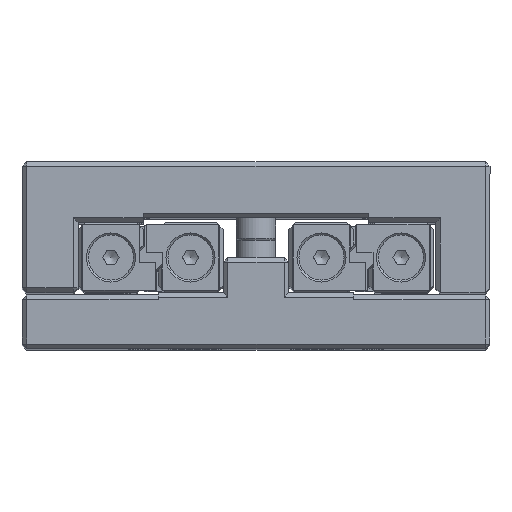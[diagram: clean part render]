
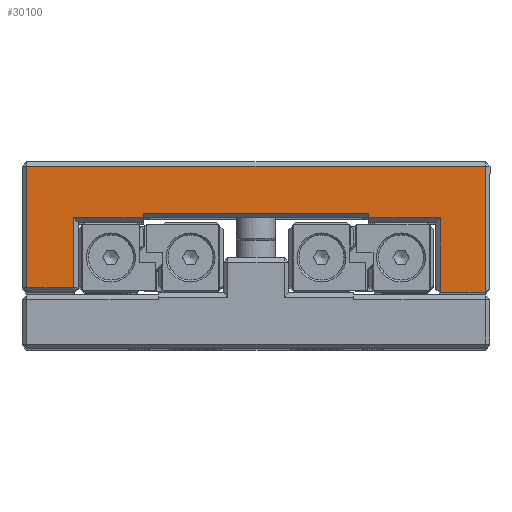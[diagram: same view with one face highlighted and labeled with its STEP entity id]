
A CAD part, top view. The second image highlights one B-rep face of the part: STEP entity #30100.
In plain terms, the highlighted planar face has unit normal (0, 0, 1).
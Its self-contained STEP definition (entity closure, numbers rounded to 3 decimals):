
#1811=PLANE('',#32404);
#3373=FACE_OUTER_BOUND('',#5135,.T.);
#5135=EDGE_LOOP('',(#24517,#24518,#24519,#24520,#24521,#24522,#24523,#24524,
#24525,#24526,#24527,#24528));
#7336=LINE('',#46457,#10132);
#7381=LINE('',#46753,#10177);
#7418=LINE('',#46983,#10214);
#7514=LINE('',#47294,#10310);
#7518=LINE('',#47302,#10314);
#7527=LINE('',#47317,#10323);
#7531=LINE('',#47325,#10327);
#7546=LINE('',#47351,#10342);
#7549=LINE('',#47355,#10345);
#7568=LINE('',#47394,#10364);
#7571=LINE('',#47399,#10367);
#7572=LINE('',#47400,#10368);
#10132=VECTOR('',#37222,10.);
#10177=VECTOR('',#37533,10.);
#10214=VECTOR('',#37702,10.);
#10310=VECTOR('',#37942,10.);
#10314=VECTOR('',#37950,10.);
#10323=VECTOR('',#37965,10.);
#10327=VECTOR('',#37971,10.);
#10342=VECTOR('',#37996,10.);
#10345=VECTOR('',#38001,10.);
#10364=VECTOR('',#38054,10.);
#10367=VECTOR('',#38061,10.);
#10368=VECTOR('',#38062,10.);
#13662=VERTEX_POINT('',#46453);
#13664=VERTEX_POINT('',#46456);
#13765=VERTEX_POINT('',#46749);
#13767=VERTEX_POINT('',#46752);
#13834=VERTEX_POINT('',#46972);
#13837=VERTEX_POINT('',#46981);
#13932=VERTEX_POINT('',#47293);
#13933=VERTEX_POINT('',#47300);
#13934=VERTEX_POINT('',#47301);
#13937=VERTEX_POINT('',#47316);
#13940=VERTEX_POINT('',#47323);
#13946=VERTEX_POINT('',#47349);
#17260=EDGE_CURVE('',#13664,#13662,#7336,.T.);
#17398=EDGE_CURVE('',#13767,#13765,#7381,.T.);
#17497=EDGE_CURVE('',#13834,#13837,#7418,.T.);
#17628=EDGE_CURVE('',#13664,#13932,#7514,.T.);
#17632=EDGE_CURVE('',#13933,#13934,#7518,.T.);
#17641=EDGE_CURVE('',#13934,#13937,#7527,.T.);
#17645=EDGE_CURVE('',#13940,#13662,#7531,.T.);
#17660=EDGE_CURVE('',#13946,#13940,#7546,.T.);
#17663=EDGE_CURVE('',#13937,#13946,#7549,.T.);
#17682=EDGE_CURVE('',#13767,#13837,#7568,.T.);
#17685=EDGE_CURVE('',#13834,#13933,#7571,.T.);
#17686=EDGE_CURVE('',#13932,#13765,#7572,.T.);
#24517=ORIENTED_EDGE('',*,*,#17685,.F.);
#24518=ORIENTED_EDGE('',*,*,#17497,.T.);
#24519=ORIENTED_EDGE('',*,*,#17682,.F.);
#24520=ORIENTED_EDGE('',*,*,#17398,.T.);
#24521=ORIENTED_EDGE('',*,*,#17686,.F.);
#24522=ORIENTED_EDGE('',*,*,#17628,.F.);
#24523=ORIENTED_EDGE('',*,*,#17260,.T.);
#24524=ORIENTED_EDGE('',*,*,#17645,.F.);
#24525=ORIENTED_EDGE('',*,*,#17660,.F.);
#24526=ORIENTED_EDGE('',*,*,#17663,.F.);
#24527=ORIENTED_EDGE('',*,*,#17641,.F.);
#24528=ORIENTED_EDGE('',*,*,#17632,.F.);
#30100=ADVANCED_FACE('',(#3373),#1811,.T.);
#32404=AXIS2_PLACEMENT_3D('',#47398,#38059,#38060);
#37222=DIRECTION('',(1.,0.,0.));
#37533=DIRECTION('',(0.,-1.,0.));
#37702=DIRECTION('',(0.,1.,0.));
#37942=DIRECTION('',(0.,1.,0.));
#37950=DIRECTION('',(0.,-1.,0.));
#37965=DIRECTION('',(-1.,0.,0.));
#37971=DIRECTION('',(0.,-1.,0.));
#37996=DIRECTION('',(1.,0.,0.));
#38001=DIRECTION('',(0.,1.,0.));
#38054=DIRECTION('',(-1.,0.,0.));
#38059=DIRECTION('center_axis',(0.,0.,
1.));
#38060=DIRECTION('ref_axis',(1.,0.,0.));
#38061=DIRECTION('',(-1.,0.,0.));
#38062=DIRECTION('',(-1.,0.,0.));
#46453=CARTESIAN_POINT('',(19.869,67.583,14.133));
#46456=CARTESIAN_POINT('',(10.269,67.583,14.133));
#46457=CARTESIAN_POINT('',(9.269,67.583,14.133));
#46749=CARTESIAN_POINT('',(-5.031,83.583,14.133));
#46752=CARTESIAN_POINT('',(-5.031,84.583,14.133));
#46753=CARTESIAN_POINT('',(-5.031,83.583,14.133));
#46972=CARTESIAN_POINT('',(-53.231,83.583,14.133));
#46981=CARTESIAN_POINT('',(-53.231,84.583,14.133));
#46983=CARTESIAN_POINT('',(-53.231,82.583,14.133));
#47293=CARTESIAN_POINT('',(10.269,83.583,14.133));
#47294=CARTESIAN_POINT('',(10.269,82.083,14.133));
#47300=CARTESIAN_POINT('',(-68.131,83.583,14.133));
#47301=CARTESIAN_POINT('',(-68.131,68.583,14.133));
#47302=CARTESIAN_POINT('',(-68.131,74.583,14.133));
#47316=CARTESIAN_POINT('',(-78.131,68.583,14.133));
#47317=CARTESIAN_POINT('',(-54.131,68.583,14.133));
#47323=CARTESIAN_POINT('',(19.869,94.583,14.133));
#47325=CARTESIAN_POINT('',(19.869,74.583,14.133));
#47349=CARTESIAN_POINT('',(-78.131,94.583,14.133));
#47351=CARTESIAN_POINT('',(-4.131,94.583,14.133));
#47355=CARTESIAN_POINT('',(-78.131,88.583,14.133));
#47394=CARTESIAN_POINT('',(-41.181,84.583,14.133));
#47398=CARTESIAN_POINT('Origin',(-29.131,81.583,14.133));
#47399=CARTESIAN_POINT('',(-48.131,83.583,14.133));
#47400=CARTESIAN_POINT('',(-17.081,83.583,14.133));
